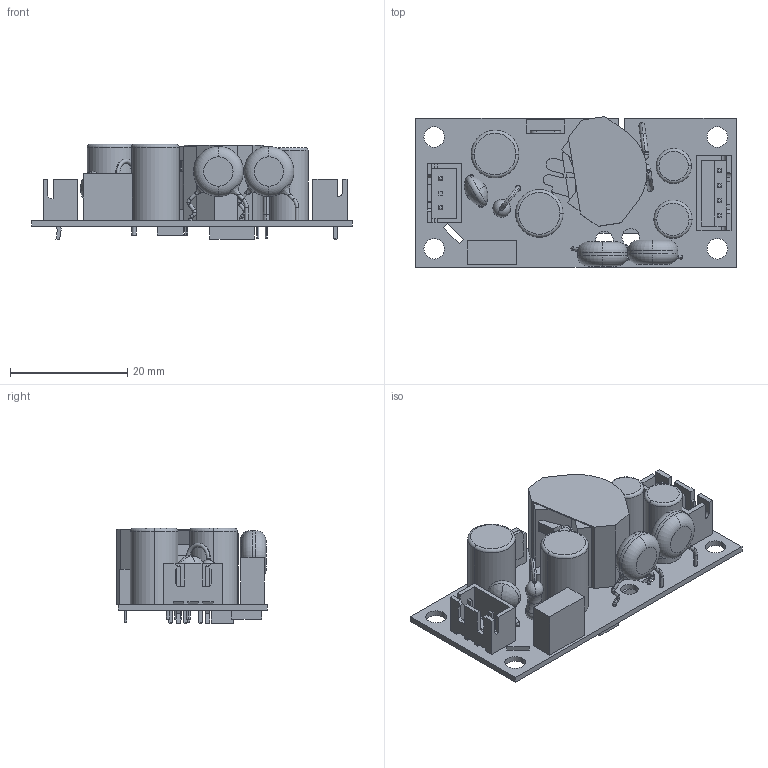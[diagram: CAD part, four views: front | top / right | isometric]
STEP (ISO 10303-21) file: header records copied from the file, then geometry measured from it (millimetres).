
FILE_DESCRIPTION (( 'STEP AP214' ), '1' );
FILE_NAME ('CFM12SXXX-T(04) 2020,04,21.STEP', '2020-04-21T02:40:18', ( '' ), ( '' ), 'SwSTEP 2.0', 'SolidWorks 2017', '' );
FILE_SCHEMA (( 'AUTOMOTIVE_DESIGN' ));
Length unit declared in the file: millimetre
Products named in the file (7): 3PIN插座(ECL25USXX-T); CFM12陶瓷電容示意圖 2018,10,29; CFM12S變壓器示意圖 2018,10,29; CFM12SXXX-T PCB(04) 2020,04,21; CFM12 電晶體示意圖 2018,10,29; CFM12SXXX-T(04) 2020,04,21; P2 4PIN插座-old
Assembly tree (6 placements, depth 2):
  CFM12SXXX-T(04) 2020,04,21
    CFM12SXXX-T PCB(04) 2020,04,21
    CFM12 電晶體示意圖 2018,10,29
    CFM12陶瓷電容示意圖 2018,10,29
    3PIN插座(ECL25USXX-T)
    CFM12S變壓器示意圖 2018,10,29
    P2 4PIN插座-old
Bounding box: 54.61 x 25.7 x 16.3 mm (x, y, z)
Volume: 7246.9 mm3; surface area: 7714.1 mm2
Topology: 13 solids, 13 shells, 585 faces, 1502 edges, 960 vertices
Faces by surface type: plane 346, cylinder 134, torus 63, bspline 34, sphere 8
Entity records: 19725 total; most frequent: CARTESIAN_POINT 4655, DIRECTION 2977, ORIENTED_EDGE 2976, EDGE_CURVE 1488, AXIS2_PLACEMENT_3D 1016, VERTEX_POINT 954, VECTOR 945, LINE 945
